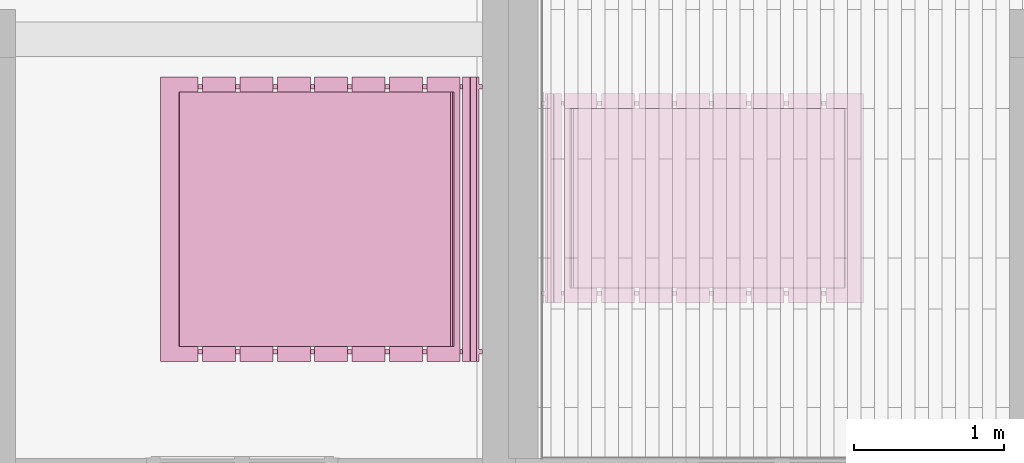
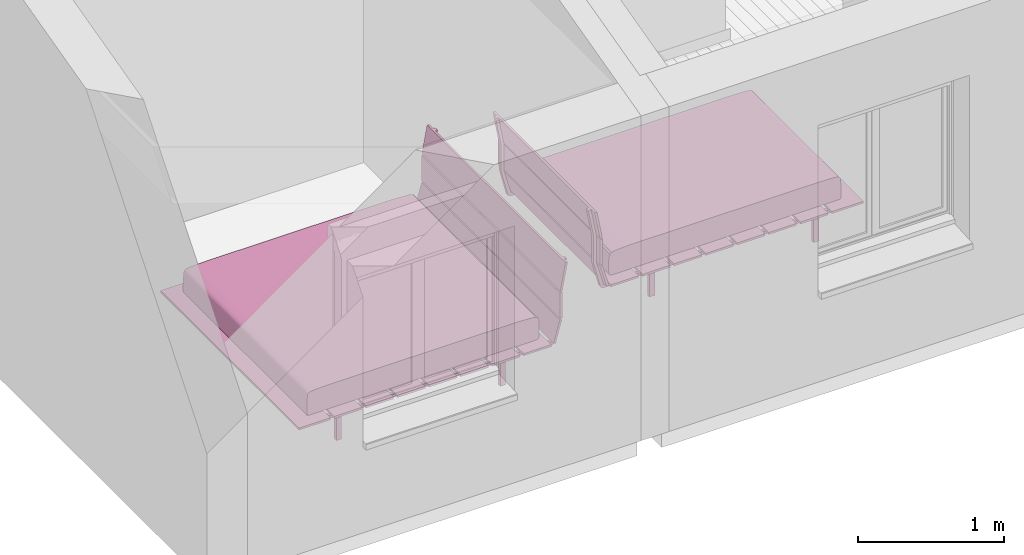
# One storey, part 47 of 50: 2 furnishings.
"""IFC2X3 building model written with IfcOpenShell, lengths in metres."""

from ifc_helpers import new_model, entity, si_unit, converted_unit, derived_unit, direction, frame, frame_2d, origin, origin_2d_with_axis, place, context, subcontext, project, spatial, polyline, circle_curve, parameter, trimmed, segment, composite_curve, rectangle, outline, extrude, source, transform, mapped, material, material_list, type_object, type_shapes, element, save


model = new_model("IFC2X3")

# Units and contexts
model_context = context("Model", 3, precision=1e-05, world=origin(), true_north=direction((6.12303176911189e-17, 1.0)))
context_of_model = context(None, 3, precision=1e-05, world=origin(), true_north=direction((6.12303176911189e-17, 1.0)))
body_context = subcontext(model_context, "Body", "Model", "MODEL_VIEW")
ifc_project = project(units=[si_unit("LENGTHUNIT", "METRE"), si_unit("AREAUNIT", "SQUARE_METRE"), si_unit("VOLUMEUNIT", "CUBIC_METRE"), converted_unit("PLANEANGLEUNIT", "DEGREE", entity("IfcRatioMeasure", 0.0174532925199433), si_unit("PLANEANGLEUNIT", "RADIAN"), dimensions=[0, 0, 0, 0, 0, 0, 0]), si_unit("MASSUNIT", "GRAM", prefix="KILO"), si_unit("TIMEUNIT", "SECOND"), si_unit("FREQUENCYUNIT", "HERTZ"), si_unit("THERMODYNAMICTEMPERATUREUNIT", "DEGREE_CELSIUS"), derived_unit("THERMALTRANSMITTANCEUNIT", [(si_unit("MASSUNIT", "GRAM", prefix="KILO"), 1), (si_unit("THERMODYNAMICTEMPERATUREUNIT", "KELVIN"), -1), (si_unit("TIMEUNIT", "SECOND"), -3)]), derived_unit("VOLUMETRICFLOWRATEUNIT", [(si_unit("LENGTHUNIT", "METRE"), 3), (si_unit("TIMEUNIT", "SECOND"), -1)]), si_unit("ELECTRICCURRENTUNIT", "AMPERE"), si_unit("ELECTRICVOLTAGEUNIT", "VOLT"), si_unit("POWERUNIT", "WATT"), si_unit("FORCEUNIT", "NEWTON", prefix="KILO"), si_unit("ILLUMINANCEUNIT", "LUX"), si_unit("LUMINOUSFLUXUNIT", "LUMEN"), si_unit("LUMINOUSINTENSITYUNIT", "CANDELA"), si_unit("PRESSUREUNIT", "PASCAL")], contexts=[model_context, context_of_model])

# Site, building, storey
site_placement = place(None, origin())
site = spatial("IfcSite", under=ifc_project, at=site_placement, Name="Surface", CompositionType="ELEMENT")
building_placement = place(site_placement, origin())
building = spatial("IfcBuilding", under=site, at=building_placement, CompositionType="ELEMENT")
storey_placement = place(building_placement, frame((0.0, 0.0, 2.82)))
storey = spatial("IfcBuildingStorey", under=building, at=storey_placement, Name="ETAGE", CompositionType="ELEMENT", Elevation=2.82)

# Furnishing
ifc_material_1 = material(Name="Textile - Bleu pâle")
ifc_material_2 = material(Name="Bois - Teck")
ifc_material_3 = material(Name="Plastique - Noir")
ifc_material_list_1 = material_list([ifc_material_1, ifc_material_2, ifc_material_3])
ifc_material_list_2 = material_list([ifc_material_1, ifc_material_2, ifc_material_3])
furniture_type_1 = type_object("IfcFurnitureType", Name="1900 mm x 2000 mm", AssemblyPlace="NOTDEFINED", material=ifc_material_list_2)
shared_shape_1 = source(origin(), body_context, "Body", "SweptSolid", [
    extrude(outline(composite_curve([segment(polyline([(0.753947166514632, -0.0964613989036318), (0.883258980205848, -0.0964613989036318)]), True, "CONTINUOUS"), segment(trimmed(circle_curve(frame_2d((0.82804087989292, 1.1581587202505), x_axis=(0.999878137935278, -0.0156111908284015)), 1.25583465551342), [parameter(273.414556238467)], [parameter(275.726345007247)], True, "PARAMETER"), True, "CONTINUOUS"), segment(trimmed(circle_curve(frame_2d((0.929150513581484, -0.0379486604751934), x_axis=(0.999878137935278, -0.0156111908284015)), 0.0554613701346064), [parameter(275.726345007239)], [parameter(297.64810869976)], True, "PARAMETER"), True, "CONTINUOUS"), segment(trimmed(circle_curve(frame_2d((0.943544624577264, -0.0665015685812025), x_axis=(0.999878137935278, -0.0156111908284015)), 0.0234854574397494), [parameter(297.648108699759)], [parameter(348.570161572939)], True, "PARAMETER"), True, "CONTINUOUS"), segment(trimmed(circle_curve(frame_2d((0.767446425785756, -0.0280276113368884), x_axis=(0.999878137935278, -0.0156111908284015)), 0.203737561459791), [parameter(348.570161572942)], [parameter(3.56222124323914e-13)], True, "PARAMETER"), True, "CONTINUOUS"), segment(polyline([(0.971159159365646, -0.0312081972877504), (0.97301851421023, 0.0878812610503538)]), True, "CONTINUOUS"), segment(polyline([(0.97301851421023, 0.0878812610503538), (0.971187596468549, 0.10002359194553)]), True, "CONTINUOUS"), segment(polyline([(0.971187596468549, 0.10002359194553), (0.955059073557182, 0.102294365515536)]), True, "CONTINUOUS"), segment(polyline([(0.955059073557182, 0.102294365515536), (-0.834665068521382, 0.130237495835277)]), True, "CONTINUOUS"), segment(polyline([(-0.834665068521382, 0.130237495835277), (-0.854928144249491, 0.12651595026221)]), True, "CONTINUOUS"), segment(polyline([(-0.854928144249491, 0.12651595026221), (-0.861114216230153, 0.118536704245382)]), True, "CONTINUOUS"), segment(polyline([(-0.861114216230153, 0.118536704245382), (-0.865626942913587, 0.0883228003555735)]), True, "CONTINUOUS"), segment(polyline([(-0.865626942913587, 0.0883228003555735), (-0.866982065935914, 0.00152878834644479)]), True, "CONTINUOUS"), segment(polyline([(-0.866982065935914, 0.00152878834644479), (-0.863446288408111, -0.0308297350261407)]), True, "CONTINUOUS"), segment(polyline([(-0.863446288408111, -0.0308297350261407), (-0.857669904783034, -0.0490905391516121)]), True, "CONTINUOUS"), segment(polyline([(-0.857669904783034, -0.0490905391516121), (-0.843687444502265, -0.0594036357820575)]), True, "CONTINUOUS"), segment(polyline([(-0.843687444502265, -0.0594036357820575), (-0.817521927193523, -0.0658690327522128)]), True, "CONTINUOUS"), segment(polyline([(-0.817521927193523, -0.0658690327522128), (-0.696416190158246, -0.0738167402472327)]), True, "CONTINUOUS"), segment(polyline([(-0.696416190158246, -0.0738167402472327), (0.753947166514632, -0.0964613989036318)]), True, "CONTINUOUS")], self_intersect=False)), frame((-0.85, -1.05656455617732, 0.367191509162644), z_axis=(1.0, 0.0, 0.0), x_axis=(0.0, -0.999878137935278, -0.0156111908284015)), (0.0, 0.0, 1.0), 1.7),
    extrude(rectangle(XDim=0.249999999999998, YDim=1.9, at=origin_2d_with_axis()), frame((0.0, -2.02499620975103, 0.232311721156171), z_axis=(0.0, 0.0, 1.0), x_axis=(0.0, 1.0, 0.0)), (0.0, 0.0, 1.0), 0.0176882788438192),
    extrude(outline(polyline([(-0.00463256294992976, -0.115042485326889), (0.0130278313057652, -0.115042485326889), (0.00471132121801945, 0.115371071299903), (-0.0131065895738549, 0.114713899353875), (-0.00463256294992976, -0.115042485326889)])), frame((-0.95, -0.051324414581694, 0.783374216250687), z_axis=(1.0, 0.0, 0.0), x_axis=(0.0, 0.975885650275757, -0.218282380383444)), (0.0, 0.0, 1.0), 1.9),
    extrude(rectangle(XDim=0.219999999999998, YDim=1.9, at=frame_2d((-1.38777878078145e-16, 0.0), x_axis=(1.0, 0.0))), frame((0.0, -1.75999620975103, 0.232311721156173), z_axis=(0.0, 0.0, 1.0), x_axis=(0.0, 1.0, 0.0)), (0.0, 0.0, 1.0), 0.0176882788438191),
    extrude(rectangle(XDim=0.219999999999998, YDim=1.9, at=frame_2d((-1.31838984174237e-16, 0.0), x_axis=(1.0, 0.0))), frame((0.0, -1.50999620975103, 0.232311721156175), z_axis=(0.0, 0.0, 1.0), x_axis=(0.0, 1.0, 0.0)), (0.0, 0.0, 1.0), 0.017688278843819),
    extrude(rectangle(XDim=0.219999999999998, YDim=1.9, at=frame_2d((-1.38777878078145e-16, 0.0), x_axis=(1.0, 0.0))), frame((0.0, -1.25999620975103, 0.232311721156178), z_axis=(0.0, 0.0, 1.0), x_axis=(0.0, 1.0, 0.0)), (0.0, 0.0, 1.0), 0.0176882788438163),
    extrude(rectangle(XDim=0.219999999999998, YDim=1.9, at=frame_2d((6.93889390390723e-17, 0.0), x_axis=(1.0, 0.0))), frame((0.0, -1.00999620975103, 0.232311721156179), z_axis=(0.0, 0.0, 1.0), x_axis=(0.0, 1.0, 0.0)), (0.0, 0.0, 1.0), 0.0176882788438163),
    extrude(rectangle(XDim=0.22, YDim=1.9, at=origin_2d_with_axis()), frame((0.0, -0.759996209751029, 0.232311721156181), z_axis=(0.0, 0.0, 1.0), x_axis=(0.0, 1.0, 0.0)), (0.0, 0.0, 1.0), 0.0176882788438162),
    extrude(rectangle(XDim=0.22, YDim=1.9, at=origin_2d_with_axis()), frame((0.0, -0.509996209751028, 0.232311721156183), z_axis=(0.0, 0.0, 1.0), x_axis=(0.0, 1.0, 0.0)), (0.0, 0.0, 1.0), 0.0176882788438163),
    extrude(rectangle(XDim=0.22, YDim=1.9, at=origin_2d_with_axis()), frame((0.0, -0.259996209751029, 0.232311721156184), z_axis=(0.0, 0.0, 1.0), x_axis=(0.0, 1.0, 0.0)), (0.0, 0.0, 1.0), 0.0176882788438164),
    extrude(rectangle(XDim=0.0183684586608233, YDim=1.9, at=origin_2d_with_axis()), frame((0.0, -0.0735868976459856, 0.443802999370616), z_axis=(0.0, 0.0, 1.0), x_axis=(0.0, 1.0, 0.0)), (0.0, 0.0, 1.0), 0.214481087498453),
    extrude(outline(polyline([(-0.0111603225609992, -0.093944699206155), (0.00684599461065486, -0.093944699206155), (0.0109625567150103, 0.0940897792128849), (-0.00664822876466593, 0.093799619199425), (-0.0111603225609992, -0.093944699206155)])), frame((-0.95, -0.100341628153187, 0.340588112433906), z_axis=(1.0, 0.0, 0.0), x_axis=(0.0, 0.969329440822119, -0.245764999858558)), (0.0, 0.0, 1.0), 1.9),
    extrude(rectangle(XDim=0.0421792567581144, YDim=0.0299999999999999, at=frame_2d((0.0, 1.35308431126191e-16), x_axis=(1.0, 0.0))), frame((-0.884999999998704, -1.80439834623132, 0.0), z_axis=(0.0, 0.0, 1.0), x_axis=(0.0, -1.0, 0.0)), (0.0, 0.0, 1.0), 0.204645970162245),
    extrude(rectangle(XDim=0.0421792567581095, YDim=0.0299999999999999, at=frame_2d((3.29597460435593e-17, 1.35308431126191e-16), x_axis=(1.0, 0.0))), frame((-0.884999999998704, -0.505017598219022, 0.0), z_axis=(0.0, 0.0, 1.0), x_axis=(0.0, -1.0, 0.0)), (0.0, 0.0, 1.0), 0.204645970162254),
    extrude(rectangle(XDim=0.0421792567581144, YDim=0.0299999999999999, at=frame_2d((2.70616862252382e-16, 0.0), x_axis=(1.0, 0.0))), frame((0.885000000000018, -1.80439834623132, 0.0), z_axis=(0.0, 0.0, 1.0), x_axis=(0.0, 1.0, 0.0)), (0.0, 0.0, 1.0), 0.204645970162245),
    extrude(rectangle(XDim=0.0421792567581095, YDim=0.0299999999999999, at=frame_2d((-3.29597460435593e-17, 0.0), x_axis=(1.0, 0.0))), frame((0.885000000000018, -0.505017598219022, 0.0), z_axis=(0.0, 0.0, 1.0), x_axis=(0.0, 1.0, 0.0)), (0.0, 0.0, 1.0), 0.204645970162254),
    extrude(outline(composite_curve([segment(polyline([(-0.333462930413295, -0.507724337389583), (-0.311650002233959, -0.507724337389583)]), True, "CONTINUOUS"), segment(polyline([(-0.311650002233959, -0.507724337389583), (-0.317185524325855, -0.272424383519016)]), True, "CONTINUOUS"), segment(polyline([(-0.317185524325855, -0.272424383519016), (-0.363847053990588, -0.050782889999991)]), True, "CONTINUOUS"), segment(polyline([(-0.363847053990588, -0.050782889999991), (-0.350538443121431, 0.161194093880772)]), True, "CONTINUOUS"), segment(polyline([(-0.350538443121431, 0.161194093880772), (1.5836166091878, 0.569312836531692)]), True, "CONTINUOUS"), segment(polyline([(1.5836166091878, 0.569312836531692), (1.55147511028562, 0.589891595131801)]), True, "CONTINUOUS"), segment(polyline([(1.55147511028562, 0.589891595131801), (-0.355855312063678, 0.188346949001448)]), True, "CONTINUOUS"), segment(trimmed(circle_curve(frame_2d((-0.350332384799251, 0.162113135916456), x_axis=(0.978549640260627, 0.206011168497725)), 0.0268088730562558), [parameter(90.0)], [parameter(167.367566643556)], True, "PARAMETER"), True, "CONTINUOUS"), segment(polyline([(-0.377138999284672, 0.162461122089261), (-0.386037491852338, -0.0554545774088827)]), True, "CONTINUOUS"), segment(polyline([(-0.386037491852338, -0.0554545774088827), (-0.339375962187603, -0.277096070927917)]), True, "CONTINUOUS"), segment(polyline([(-0.339375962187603, -0.277096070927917), (-0.333462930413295, -0.507724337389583)]), True, "CONTINUOUS")], self_intersect=False)), frame((-0.899999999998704, -0.430906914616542, 0.462262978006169), z_axis=(1.0, 0.0, 0.0), x_axis=(0.0, -0.978549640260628, 0.206011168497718)), (0.0, 0.0, 1.0), 0.0299999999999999),
    extrude(outline(composite_curve([segment(polyline([(-0.333462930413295, -0.507724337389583), (-0.311650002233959, -0.507724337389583)]), True, "CONTINUOUS"), segment(polyline([(-0.311650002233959, -0.507724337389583), (-0.317185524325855, -0.272424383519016)]), True, "CONTINUOUS"), segment(polyline([(-0.317185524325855, -0.272424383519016), (-0.363847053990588, -0.0507828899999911)]), True, "CONTINUOUS"), segment(polyline([(-0.363847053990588, -0.0507828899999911), (-0.350538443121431, 0.161194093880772)]), True, "CONTINUOUS"), segment(polyline([(-0.350538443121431, 0.161194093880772), (1.5836166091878, 0.569312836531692)]), True, "CONTINUOUS"), segment(polyline([(1.5836166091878, 0.569312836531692), (1.55147511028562, 0.5898915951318)]), True, "CONTINUOUS"), segment(polyline([(1.55147511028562, 0.5898915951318), (-0.355855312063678, 0.188346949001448)]), True, "CONTINUOUS"), segment(trimmed(circle_curve(frame_2d((-0.350332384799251, 0.162113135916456), x_axis=(0.978549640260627, 0.206011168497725)), 0.0268088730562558), [parameter(90.0)], [parameter(167.367566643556)], True, "PARAMETER"), True, "CONTINUOUS"), segment(polyline([(-0.377138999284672, 0.162461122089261), (-0.386037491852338, -0.0554545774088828)]), True, "CONTINUOUS"), segment(polyline([(-0.386037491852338, -0.0554545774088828), (-0.339375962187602, -0.277096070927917)]), True, "CONTINUOUS"), segment(polyline([(-0.339375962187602, -0.277096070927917), (-0.333462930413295, -0.507724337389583)]), True, "CONTINUOUS")], self_intersect=False)), frame((0.870000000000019, -0.430906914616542, 0.462262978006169), z_axis=(1.0, 0.0, 0.0), x_axis=(0.0, -0.978549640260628, 0.206011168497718)), (0.0, 0.0, 1.0), 0.0299999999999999),
])
type_shapes(furniture_type_1, [shared_shape_1])
furnishing_1_placement = place(storey_placement, frame((83.5310189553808, 82.8475239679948, 0.0199999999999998), z_axis=(0.0, 0.0, 1.0), x_axis=(0.0, -1.0, 0.0)))
element("IfcFurnishingElement", 1, at=furnishing_1_placement, inside=storey, type_object=furniture_type_1, material=ifc_material_list_1, Name="Lit à lattes:1900 mm x 2000 mm", ObjectType="1900 mm x 2000 mm", context=body_context, shape_type="MappedRepresentation", body=[
    mapped(shared_shape_1, transform((0.0, 0.0, 0.0), scale=1.0)),
])

# Space
space_placement = place(storey_placement, origin())
space = spatial("IfcSpace", under=storey, at=space_placement, Name="477", CompositionType="ELEMENT", InteriorOrExteriorSpace="INTERNAL")

# Furnishing
ifc_material_list_3 = material_list([ifc_material_1, ifc_material_2, ifc_material_3])
ifc_material_list_4 = material_list([ifc_material_1, ifc_material_2, ifc_material_3])
furniture_type_2 = type_object("IfcFurnitureType", Name="1400 mm x 2000 mm 2", AssemblyPlace="NOTDEFINED", material=ifc_material_list_4)
shared_shape_2 = source(origin(), body_context, "Body", "SweptSolid", [
    extrude(outline(composite_curve([segment(polyline([(-0.755361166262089, -0.0846796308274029), (0.695178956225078, -0.0846796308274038)]), True, "CONTINUOUS"), segment(polyline([(0.695178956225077, -0.0846796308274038), (0.816394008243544, -0.078623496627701)]), True, "CONTINUOUS"), segment(polyline([(0.816394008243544, -0.078623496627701), (0.842657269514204, -0.0725673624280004)]), True, "CONTINUOUS"), segment(polyline([(0.842657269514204, -0.0725673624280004), (0.856799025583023, -0.0624738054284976)]), True, "CONTINUOUS"), segment(polyline([(0.856799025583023, -0.0624738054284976), (0.862859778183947, -0.0443054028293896)]), True, "CONTINUOUS"), segment(polyline([(0.862859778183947, -0.0443054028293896), (0.866900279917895, -0.0120060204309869)]), True, "CONTINUOUS"), segment(polyline([(0.866900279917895, -0.0120060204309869), (0.866900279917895, 0.0747985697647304)]), True, "CONTINUOUS"), segment(polyline([(0.866900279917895, 0.0747985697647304), (0.862859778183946, 0.105079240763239)]), True, "CONTINUOUS"), segment(polyline([(0.862859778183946, 0.105079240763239), (0.856799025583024, 0.113154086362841)]), True, "CONTINUOUS"), segment(polyline([(0.856799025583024, 0.113154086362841), (0.836596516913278, 0.117191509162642)]), True, "CONTINUOUS"), segment(polyline([(0.836596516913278, 0.117191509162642), (-0.953345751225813, 0.117191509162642)]), True, "CONTINUOUS"), segment(polyline([(-0.953345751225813, 0.117191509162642), (-0.969507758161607, 0.115172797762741)]), True, "CONTINUOUS"), segment(polyline([(-0.969507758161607, 0.115172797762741), (-0.971528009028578, 0.103060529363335)]), True, "CONTINUOUS"), segment(polyline([(-0.971528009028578, 0.103060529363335), (-0.971528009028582, -0.0160434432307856)]), True, "CONTINUOUS"), segment(trimmed(circle_curve(frame_2d((-0.76779044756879, -0.0160434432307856), x_axis=(-1.0, 0.0)), 0.203737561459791), [parameter(360.0)], [parameter(11.4298384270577)], True, "PARAMETER"), True, "CONTINUOUS"), segment(trimmed(circle_curve(frame_2d((-0.944467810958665, -0.0517636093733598), x_axis=(-1.0, 0.0)), 0.0234854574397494), [parameter(11.4298384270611)], [parameter(62.3518913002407)], True, "PARAMETER"), True, "CONTINUOUS"), segment(trimmed(circle_curve(frame_2d((-0.929629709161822, -0.0234388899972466), x_axis=(-1.0, 0.0)), 0.0554613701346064), [parameter(62.35189130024)], [parameter(84.2736549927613)], True, "PARAMETER"), True, "CONTINUOUS"), segment(trimmed(circle_curve(frame_2d((-0.809859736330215, 1.1709442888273), x_axis=(-1.0, 0.0)), 1.25583465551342), [parameter(84.2736549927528)], [parameter(86.5854437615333)], True, "PARAMETER"), True, "CONTINUOUS"), segment(polyline([(-0.884657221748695, -0.0826609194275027), (-0.755361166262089, -0.0846796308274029)]), True, "CONTINUOUS")], self_intersect=False)), frame((-0.6, 1.05656455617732, 0.367191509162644), z_axis=(1.0, 0.0, 0.0), x_axis=(0.0, -1.0, 0.0)), (0.0, 0.0, 1.0), 1.2),
    extrude(rectangle(XDim=1.4, YDim=0.249999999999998, at=origin_2d_with_axis()), frame((0.0, 2.02499620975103, 0.232311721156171), z_axis=(0.0, 0.0, 1.0), x_axis=(-1.0, 0.0, 0.0)), (0.0, 0.0, 1.0), 0.0176882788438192),
    extrude(outline(polyline([(-0.114793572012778, -0.00886960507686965), (0.115119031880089, -0.00886960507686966), (0.115119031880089, 0.00896042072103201), (-0.115444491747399, 0.00877878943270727), (-0.114793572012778, -0.00886960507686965)])), frame((-0.7, 0.051324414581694, 0.783374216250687), z_axis=(1.0, 0.0, 0.0), x_axis=(0.0, -0.182165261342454, 0.983267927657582)), (0.0, 0.0, 1.0), 1.4),
    extrude(rectangle(XDim=1.4, YDim=0.219999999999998, at=frame_2d((0.0, 1.38777878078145e-16), x_axis=(1.0, 0.0))), frame((0.0, 1.75999620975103, 0.232311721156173), z_axis=(0.0, 0.0, 1.0), x_axis=(-1.0, 0.0, 0.0)), (0.0, 0.0, 1.0), 0.0176882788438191),
    extrude(rectangle(XDim=1.4, YDim=0.219999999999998, at=frame_2d((0.0, -1.31838984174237e-16), x_axis=(1.0, 0.0))), frame((0.0, 1.50999620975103, 0.232311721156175), z_axis=(0.0, 0.0, 1.0), x_axis=(-1.0, 0.0, 0.0)), (0.0, 0.0, 1.0), 0.017688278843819),
    extrude(rectangle(XDim=1.4, YDim=0.219999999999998, at=frame_2d((0.0, -1.38777878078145e-16), x_axis=(1.0, 0.0))), frame((0.0, 1.25999620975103, 0.232311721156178), z_axis=(0.0, 0.0, 1.0), x_axis=(-1.0, 0.0, 0.0)), (0.0, 0.0, 1.0), 0.0176882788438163),
    extrude(rectangle(XDim=1.4, YDim=0.219999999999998, at=frame_2d((0.0, 6.93889390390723e-17), x_axis=(1.0, 0.0))), frame((0.0, 1.00999620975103, 0.232311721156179), z_axis=(0.0, 0.0, 1.0), x_axis=(-1.0, 0.0, 0.0)), (0.0, 0.0, 1.0), 0.0176882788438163),
    extrude(rectangle(XDim=1.4, YDim=0.22, at=origin_2d_with_axis()), frame((0.0, 0.759996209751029, 0.232311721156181), z_axis=(0.0, 0.0, 1.0), x_axis=(-1.0, 0.0, 0.0)), (0.0, 0.0, 1.0), 0.0176882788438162),
    extrude(rectangle(XDim=1.4, YDim=0.22, at=origin_2d_with_axis()), frame((0.0, 0.509996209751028, 0.232311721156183), z_axis=(0.0, 0.0, 1.0), x_axis=(-1.0, 0.0, 0.0)), (0.0, 0.0, 1.0), 0.0176882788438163),
    extrude(rectangle(XDim=1.4, YDim=0.22, at=origin_2d_with_axis()), frame((0.0, 0.259996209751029, 0.232311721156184), z_axis=(0.0, 0.0, 1.0), x_axis=(-1.0, 0.0, 0.0)), (0.0, 0.0, 1.0), 0.0176882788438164),
    extrude(rectangle(XDim=1.4, YDim=0.0183684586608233, at=origin_2d_with_axis()), frame((0.0, 0.0735868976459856, 0.443802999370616), z_axis=(0.0, 0.0, 1.0), x_axis=(-1.0, 0.0, 0.0)), (0.0, 0.0, 1.0), 0.214481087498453),
    extrude(outline(polyline([(-0.0941857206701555, -0.00889996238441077), (0.0936128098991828, -0.00889996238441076), (0.0943260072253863, 0.00869876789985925), (-0.0937530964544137, 0.00910115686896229), (-0.0941857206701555, -0.00889996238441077)])), frame((-0.7, 0.100341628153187, 0.340588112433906), z_axis=(1.0, 0.0, 0.0), x_axis=(0.0, -0.268983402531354, 0.96314481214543)), (0.0, 0.0, 1.0), 1.4),
    extrude(rectangle(XDim=0.0299999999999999, YDim=0.0421792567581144, at=frame_2d((0.0, -2.70616862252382e-16), x_axis=(1.0, 0.0))), frame((-0.634999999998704, 1.80439834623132, 0.0)), (0.0, 0.0, 1.0), 0.204645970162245),
    extrude(rectangle(XDim=0.0299999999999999, YDim=0.0421792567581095, at=frame_2d((0.0, -3.29597460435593e-17), x_axis=(1.0, 0.0))), frame((-0.634999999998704, 0.505017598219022, 0.0)), (0.0, 0.0, 1.0), 0.204645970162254),
    extrude(rectangle(XDim=0.0299999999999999, YDim=0.0421792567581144, at=origin_2d_with_axis()), frame((0.635000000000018, 1.80439834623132, 0.0), z_axis=(0.0, 0.0, 1.0), x_axis=(-1.0, 0.0, 0.0)), (0.0, 0.0, 1.0), 0.204645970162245),
    extrude(rectangle(XDim=0.0299999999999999, YDim=0.0421792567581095, at=frame_2d((0.0, -3.29597460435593e-17), x_axis=(1.0, 0.0))), frame((0.635000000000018, 0.505017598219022, 0.0), z_axis=(0.0, 0.0, 1.0), x_axis=(-1.0, 0.0, 0.0)), (0.0, 0.0, 1.0), 0.204645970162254),
    extrude(outline(composite_curve([segment(polyline([(-0.499010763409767, 0.346366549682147), (-0.499569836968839, 0.324560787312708)]), True, "CONTINUOUS"), segment(polyline([(-0.499569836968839, 0.324560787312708), (-0.2642053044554, 0.324063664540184)]), True, "CONTINUOUS"), segment(polyline([(-0.2642053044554, 0.324063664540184), (-0.0414406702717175, 0.365029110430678)]), True, "CONTINUOUS"), segment(polyline([(-0.0414406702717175, 0.365029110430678), (0.170125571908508, 0.346291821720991)]), True, "CONTINUOUS"), segment(polyline([(0.170125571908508, 0.346291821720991), (0.528537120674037, -1.59768807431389)]), True, "CONTINUOUS"), segment(polyline([(0.528537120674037, -1.59768807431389), (0.549932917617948, -1.56608457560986)]), True, "CONTINUOUS"), segment(polyline([(0.549932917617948, -1.56608457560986), (0.19740578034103, 0.350911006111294)]), True, "CONTINUOUS"), segment(trimmed(circle_curve(frame_2d((0.17103903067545, 0.346062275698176), x_axis=(0.180862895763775, -0.983508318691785)), 0.0268088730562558), [parameter(90.0)], [parameter(167.367566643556)], True, "PARAMETER"), True, "CONTINUOUS"), segment(polyline([(0.172073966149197, 0.372851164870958), (-0.0455420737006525, 0.387331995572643)]), True, "CONTINUOUS"), segment(polyline([(-0.0455420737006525, 0.387331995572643), (-0.268306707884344, 0.346366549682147)]), True, "CONTINUOUS"), segment(polyline([(-0.268306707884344, 0.346366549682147), (-0.499010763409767, 0.346366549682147)]), True, "CONTINUOUS")], self_intersect=False)), frame((-0.649999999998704, 0.430906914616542, 0.462262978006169), z_axis=(-1.0, 0.0, 0.0), x_axis=(0.0, 0.180862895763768, -0.983508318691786)), (0.0, 0.0, -1.0), 0.0299999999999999),
    extrude(outline(composite_curve([segment(polyline([(-0.499010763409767, 0.346366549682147), (-0.49956983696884, 0.324560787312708)]), True, "CONTINUOUS"), segment(polyline([(-0.49956983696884, 0.324560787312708), (-0.2642053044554, 0.324063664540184)]), True, "CONTINUOUS"), segment(polyline([(-0.2642053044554, 0.324063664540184), (-0.0414406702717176, 0.365029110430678)]), True, "CONTINUOUS"), segment(polyline([(-0.0414406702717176, 0.365029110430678), (0.170125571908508, 0.346291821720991)]), True, "CONTINUOUS"), segment(polyline([(0.170125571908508, 0.346291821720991), (0.528537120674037, -1.59768807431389)]), True, "CONTINUOUS"), segment(polyline([(0.528537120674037, -1.59768807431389), (0.549932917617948, -1.56608457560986)]), True, "CONTINUOUS"), segment(polyline([(0.549932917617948, -1.56608457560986), (0.19740578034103, 0.350911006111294)]), True, "CONTINUOUS"), segment(trimmed(circle_curve(frame_2d((0.17103903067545, 0.346062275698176), x_axis=(0.180862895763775, -0.983508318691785)), 0.0268088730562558), [parameter(90.0)], [parameter(167.367566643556)], True, "PARAMETER"), True, "CONTINUOUS"), segment(polyline([(0.172073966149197, 0.372851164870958), (-0.0455420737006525, 0.387331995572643)]), True, "CONTINUOUS"), segment(polyline([(-0.0455420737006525, 0.387331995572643), (-0.268306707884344, 0.346366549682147)]), True, "CONTINUOUS"), segment(polyline([(-0.268306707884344, 0.346366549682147), (-0.499010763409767, 0.346366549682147)]), True, "CONTINUOUS")], self_intersect=False)), frame((0.620000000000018, 0.430906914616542, 0.462262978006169), z_axis=(-1.0, 0.0, 0.0), x_axis=(0.0, 0.180862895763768, -0.983508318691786)), (0.0, 0.0, -1.0), 0.0299999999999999),
])
type_shapes(furniture_type_2, [shared_shape_2])
furnishing_2_placement = place(space_placement, frame((83.9267857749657, 82.9875239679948, 0.0399999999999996), z_axis=(0.0, 0.0, 1.0), x_axis=(0.0, -1.0, 0.0)))
element("IfcFurnishingElement", 2, at=furnishing_2_placement, inside=space, type_object=furniture_type_2, material=ifc_material_list_3, Name="Lit à lattes:1400 mm x 2000 mm 2", ObjectType="1400 mm x 2000 mm 2", context=body_context, shape_type="MappedRepresentation", body=[
    mapped(shared_shape_2, transform((0.0, 0.0, 0.0), scale=1.0)),
])

save(model, "model.ifc")
